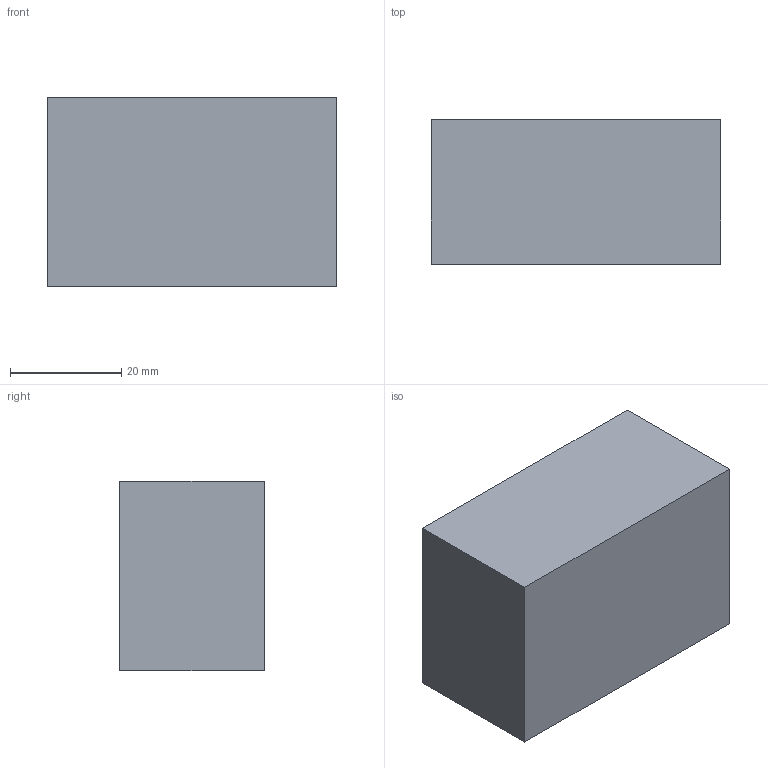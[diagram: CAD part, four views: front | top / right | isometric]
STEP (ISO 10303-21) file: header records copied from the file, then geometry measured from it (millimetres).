
FILE_DESCRIPTION(('Open CASCADE Model'),'2;1');
FILE_NAME('Open CASCADE Shape Model','2026-09-20T05:39:32',('Author'),( 'Open CASCADE'),'Open CASCADE STEP processor 7.9','Open CASCADE 7.9' ,'Unknown');
FILE_SCHEMA(('AUTOMOTIVE_DESIGN { 1 0 10303 214 1 1 1 1 }'));
Length unit declared in the file: millimetre
Products named in the file (1): Open CASCADE STEP translator 7.9 17
Bounding box: 52 x 26 x 34 mm (x, y, z)
Volume: 45968 mm3; surface area: 8008 mm2
Topology: 1 solids, 1 shells, 6 faces, 12 edges, 8 vertices
Faces by surface type: plane 6
Entity records: 322 total; most frequent: CARTESIAN_POINT 51, DIRECTION 50, LINE 36, VECTOR 36, ORIENTED_EDGE 24, PCURVE 24, DEFINITIONAL_REPRESENTATION 24, EDGE_CURVE 12
